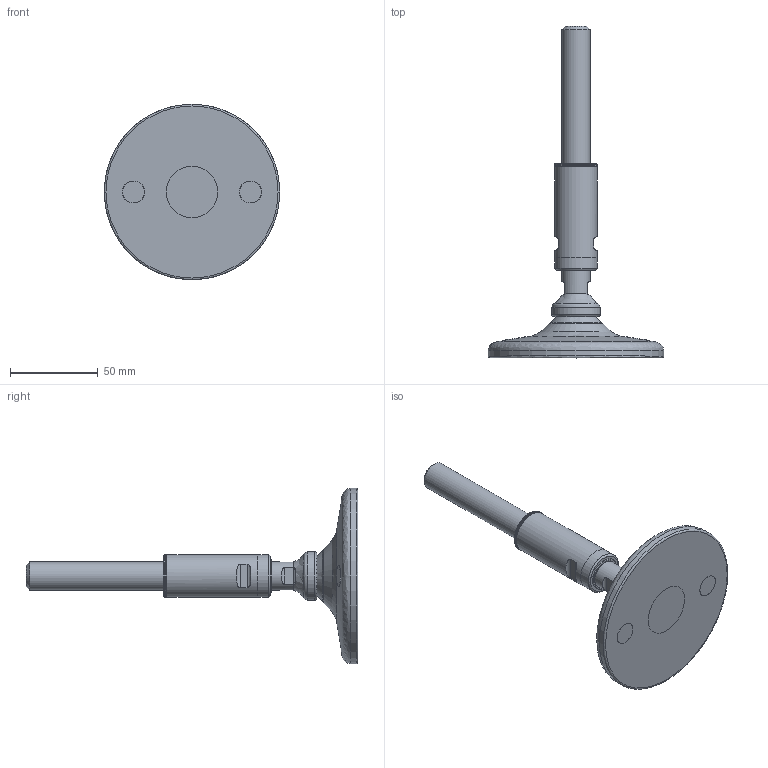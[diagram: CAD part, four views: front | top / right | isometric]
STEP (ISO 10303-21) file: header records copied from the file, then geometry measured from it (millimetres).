
FILE_DESCRIPTION(('STEP AP203'),'2;1');
FILE_NAME('27360F-3A.stp','2017-03-03T10:12:49',(''),(''),'2008.1.107','THINKDESIGN','');
FILE_SCHEMA(('CONFIG_CONTROL_DESIGN'));
Length unit declared in the file: millimetre
Bounding box: 100 x 189 x 100 mm (x, y, z)
Volume: 110348.7 mm3; surface area: 46708.9 mm2
Topology: 8 solids, 8 shells, 127 faces, 433 edges, 366 vertices
Faces by surface type: plane 44, bspline 42, cylinder 41
Full cylindrical faces by diameter (mm): 8.5 x1, 10 x1, 10.3 x1, 12 x2, 12.5 x6, 14 x1, 16 x3, 16.006 x1, 16.4 x2, 18 x2, 19.006 x2, 22 x2, 22.006 x2, 22.4 x2, 24 x2, 24.4 x1, 27.5 x1, 100 x1
Entity records: 6699 total; most frequent: CARTESIAN_POINT 3755, DIRECTION 646, COMPOSITE_CURVE_SEGMENT 291, ORIENTED_EDGE 276, AXIS2_PLACEMENT_3D 266, CIRCLE 177, EDGE_CURVE 138, VECTOR 114
